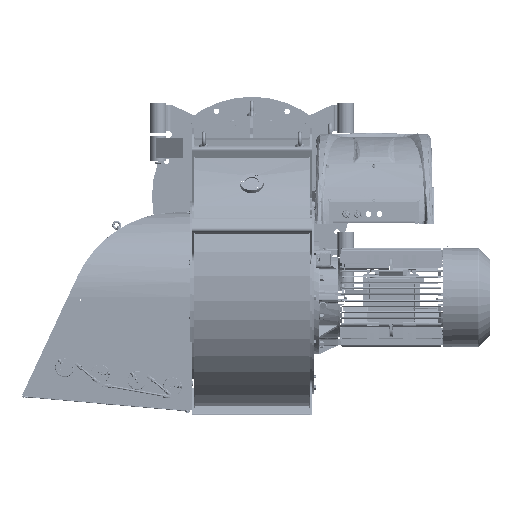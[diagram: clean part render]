
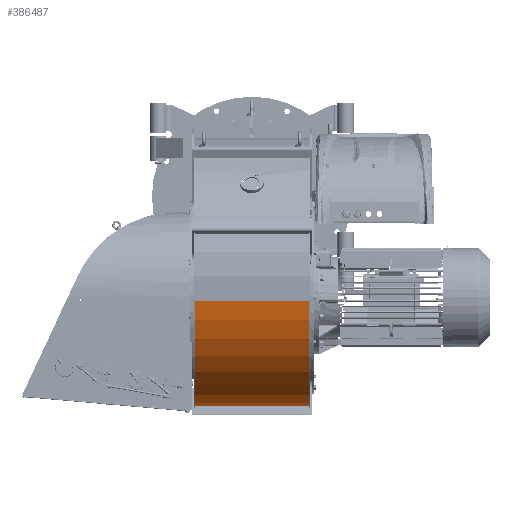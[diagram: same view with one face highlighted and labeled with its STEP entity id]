
A CAD part, top view. The second image highlights one B-rep face of the part: STEP entity #386487.
In plain terms, the highlighted cylindrical face has radius 484.35 mm (diameter 968.7 mm), a partial arc.
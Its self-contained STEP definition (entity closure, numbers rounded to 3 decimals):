
#33754 = AXIS2_PLACEMENT_3D ( 'NONE', #100919, #133408, #277006 ) ;
#38199 = CARTESIAN_POINT ( 'NONE',  ( -226., -359.5, 651. ) ) ;
#48377 = VERTEX_POINT ( 'NONE', #370526 ) ;
#48552 = DIRECTION ( 'NONE',  ( 1., 0., 0. ) ) ;
#50360 = AXIS2_PLACEMENT_3D ( 'NONE', #400820, #48552, #119460 ) ;
#54798 = CARTESIAN_POINT ( 'NONE',  ( -226., -413.469, 1132.334 ) ) ;
#62275 = ORIENTED_EDGE ( 'NONE', *, *, #326449, .T. ) ;
#73628 = DIRECTION ( 'NONE',  ( 0., 0., 1. ) ) ;
#75145 = DIRECTION ( 'NONE',  ( 1., 0., 0. ) ) ;
#99860 = ORIENTED_EDGE ( 'NONE', *, *, #178738, .F. ) ;
#100919 = CARTESIAN_POINT ( 'NONE',  ( -226., -359.5, 651. ) ) ;
#102000 = LINE ( 'NONE', #208516, #406266 ) ;
#103778 = EDGE_CURVE ( 'NONE', #48377, #193124, #195710, .T. ) ;
#112877 = ORIENTED_EDGE ( 'NONE', *, *, #283945, .T. ) ;
#113224 = FACE_OUTER_BOUND ( 'NONE', #288832, .T. ) ;
#119460 = DIRECTION ( 'NONE',  ( 0., 0., 1. ) ) ;
#120753 = VERTEX_POINT ( 'NONE', #54798 ) ;
#120948 = VERTEX_POINT ( 'NONE', #251219 ) ;
#133408 = DIRECTION ( 'NONE',  ( 1., 0., 0. ) ) ;
#165688 = DIRECTION ( 'NONE',  ( 1., 0., 0. ) ) ;
#178738 = EDGE_CURVE ( 'NONE', #120753, #48377, #102000, .T. ) ;
#193124 = VERTEX_POINT ( 'NONE', #383872 ) ;
#195125 = CARTESIAN_POINT ( 'NONE',  ( -226., -837.013, 569.907 ) ) ;
#195623 = AXIS2_PLACEMENT_3D ( 'NONE', #38199, #75145, #73628 ) ;
#195710 = CIRCLE ( 'NONE', #50360, 484.35 ) ;
#208516 = CARTESIAN_POINT ( 'NONE',  ( -226., -413.469, 1132.334 ) ) ;
#240454 = CYLINDRICAL_SURFACE ( 'NONE', #33754, 484.35 ) ;
#242207 = ORIENTED_EDGE ( 'NONE', *, *, #103778, .F. ) ;
#251219 = CARTESIAN_POINT ( 'NONE',  ( -226., -837.013, 569.907 ) ) ;
#277006 = DIRECTION ( 'NONE',  ( 0., 0., -1. ) ) ;
#283945 = EDGE_CURVE ( 'NONE', #120753, #120948, #380396, .T. ) ;
#288832 = EDGE_LOOP ( 'NONE', ( #242207, #99860, #112877, #62275 ) ) ;
#326449 = EDGE_CURVE ( 'NONE', #120948, #193124, #367467, .T. ) ;
#367467 = LINE ( 'NONE', #195125, #445193 ) ;
#370526 = CARTESIAN_POINT ( 'NONE',  ( 226., -413.469, 1132.334 ) ) ;
#380396 = CIRCLE ( 'NONE', #195623, 484.35 ) ;
#383872 = CARTESIAN_POINT ( 'NONE',  ( 226., -837.013, 569.907 ) ) ;
#386487 = ADVANCED_FACE ( 'NONE', ( #113224 ), #240454, .T. ) ;
#400820 = CARTESIAN_POINT ( 'NONE',  ( 226., -359.5, 651. ) ) ;
#406266 = VECTOR ( 'NONE', #454465, 1000. ) ;
#445193 = VECTOR ( 'NONE', #165688, 1000. ) ;
#454465 = DIRECTION ( 'NONE',  ( 1., 0., 0. ) ) ;
